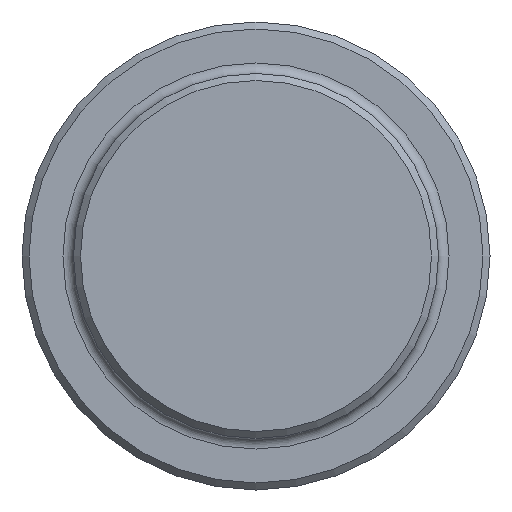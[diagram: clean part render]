
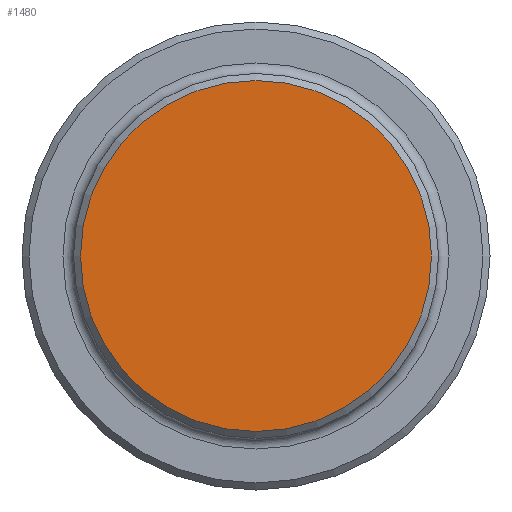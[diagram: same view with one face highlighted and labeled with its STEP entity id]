
A CAD part, left-side view. The second image highlights one B-rep face of the part: STEP entity #1480.
In plain terms, the highlighted planar face has unit normal (-1, 0, 0).
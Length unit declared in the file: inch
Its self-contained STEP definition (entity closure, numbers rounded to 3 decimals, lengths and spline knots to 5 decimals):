
#3 = AXIS2_PLACEMENT_3D ( 'NONE', #1107, #587, #1692 ) ;
#21 = CARTESIAN_POINT ( 'NONE',  ( 0., 0., 0. ) ) ;
#532 = CIRCLE ( 'NONE', #1688, 1.5 ) ;
#587 = DIRECTION ( 'NONE',  ( 1., 0., 0. ) ) ;
#704 = PLANE ( 'NONE',  #3 ) ;
#854 = DIRECTION ( 'NONE',  ( 0., 0., -1. ) ) ;
#1036 = DIRECTION ( 'NONE',  ( -1., 0., 0. ) ) ;
#1107 = CARTESIAN_POINT ( 'NONE',  ( 0., 0., 0. ) ) ;
#1126 = EDGE_CURVE ( 'NONE', #1349, #1349, #532, .T. ) ;
#1241 = ORIENTED_EDGE ( 'NONE', *, *, #1126, .T. ) ;
#1349 = VERTEX_POINT ( 'NONE', #1419 ) ;
#1419 = CARTESIAN_POINT ( 'NONE',  ( 0., 0., -1.5 ) ) ;
#1480 = ADVANCED_FACE ( 'NONE', ( #1722 ), #704, .F. ) ;
#1688 = AXIS2_PLACEMENT_3D ( 'NONE', #21, #1036, #854 ) ;
#1692 = DIRECTION ( 'NONE',  ( 0., 0., -1. ) ) ;
#1722 = FACE_OUTER_BOUND ( 'NONE', #1761, .T. ) ;
#1761 = EDGE_LOOP ( 'NONE', ( #1241 ) ) ;
